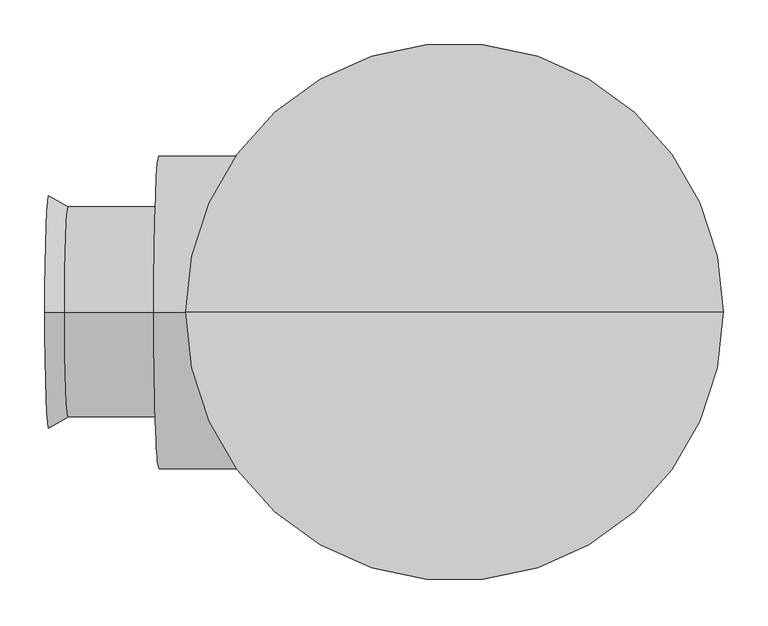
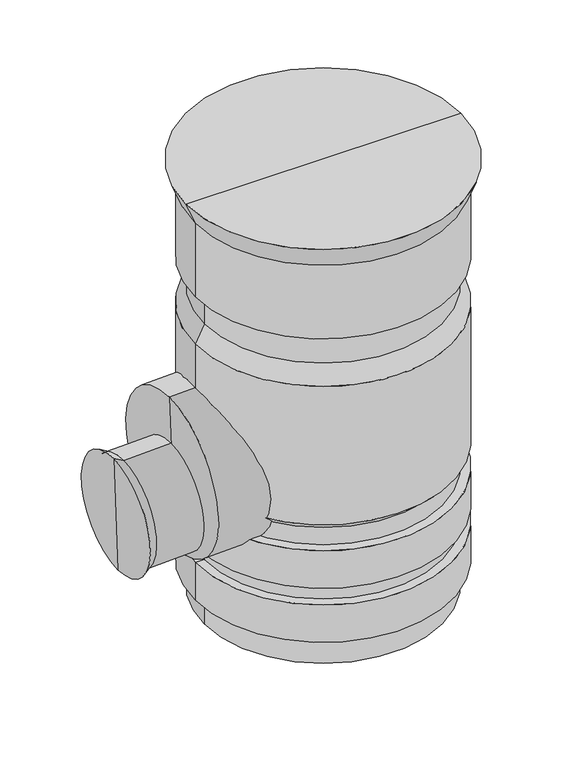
"""IFC4 building model written with IfcOpenShell, lengths in millimetres: pipe fitting geometry, PlastigamaWavin_Unionesdetubería_NovafortSumideros : Sumidero TipoI 220-335mm."""

from ifc_helpers import new_model, si_unit, frame, origin, place, context, project, spatial, polyline, circle_curve, source, transform, mapped, element, save
from ifc_brep_helpers import plane_surface, cylinder_surface, revolved_surface, advanced_brep


def pipe_fitting_116cf6c6(model_context):
    return source(origin(), model_context, "Body", "AdvancedBrep", [
        advanced_brep(
        [(-323.691561, 0.0, 200.6997714), (-335.9063848, 0.0, 550.4865608), (-215.9794856, 0.0, 554.6745004), (-203.7646618, 0.0, 204.887711), (-329.7989729, 0.0, 375.5931661), (-209.8720737, 0.0, 379.7811057)],
        [
            (0, 1, circle_curve(frame((-329.7989729, 0.0, 375.5931661), z_axis=(0.9993908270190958, 0.0, 0.03489949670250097), x_axis=(-0.03489949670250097, 0.0, 0.9993908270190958)), 175.0)),
            (1, 2),
            (2, 3, circle_curve(frame((-209.8720737, 0.0, 379.7811057), z_axis=(-0.9993908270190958, 0.0, -0.03489949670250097), x_axis=(-0.03489949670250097, 0.0, 0.9993908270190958)), 175.0)),
            (3, 0),
            (1, 0, circle_curve(frame((-329.7989729, 0.0, 375.5931661), z_axis=(0.9993908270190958, 0.0, 0.03489949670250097), x_axis=(-0.03489949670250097, 0.0, 0.9993908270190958)), 175.0)),
            (3, 2, circle_curve(frame((-209.8720737, 0.0, 379.7811057), z_axis=(-0.9993908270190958, 0.0, -0.03489949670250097), x_axis=(-0.03489949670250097, 0.0, 0.9993908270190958)), 175.0)),
            (4, 1),
            (0, 4),
            (2, 5),
            (5, 3),
        ],
        [
            cylinder_surface(frame((-329.7989729, 0.0, 375.5931661), z_axis=(-0.9993908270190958, 0.0, -0.03489949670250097), x_axis=(-0.03489949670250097, 0.0, 0.9993908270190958)), 175.0),
            plane_surface(frame((-329.7989729, 0.0, 375.5931661), z_axis=(-0.9993908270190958, 0.0, -0.03489949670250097), x_axis=(-0.03489949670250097, 0.0, 0.9993908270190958))),
            plane_surface(frame((-209.8720737, 0.0, 379.7811057), z_axis=(0.9993908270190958, 0.0, 0.03489949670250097), x_axis=(-0.03489949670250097, 0.0, 0.9993908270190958))),
        ],
        [
            (0, [[1, 2, 3, 4]]),
            (0, [[5, -4, 6, -2]]),
            (1, [[7, -1, 8]]),
            (1, [[-8, -5, -7]]),
            (2, [[-3, 9, 10]]),
            (2, [[-6, -10, -9]]),
        ],
    ),
        advanced_brep(
        [(-323.9533072, 0.0, 208.1952026), (-332.1546889, 0.0, 443.0520469), (-328.0539981, 0.0, 325.6236247), (-427.2397145, 0.0, 204.5883617), (-435.4410962, 0.0, 439.4452061), (-448.4409169, 0.0, 191.3403801), (-457.514786, 0.0, 451.1819952), (-452.9778515, 0.0, 321.2611876)],
        [
            (0, 1, circle_curve(frame((-328.0539981, 0.0, 325.6236247), z_axis=(0.9993908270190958, 0.0, 0.03489949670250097), x_axis=(-0.03489949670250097, 0.0, 0.9993908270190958)), 117.5)),
            (1, 2),
            (2, 0),
            (1, 0, circle_curve(frame((-328.0539981, 0.0, 325.6236247), z_axis=(0.9993908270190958, 0.0, 0.03489949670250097), x_axis=(-0.03489949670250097, 0.0, 0.9993908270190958)), 117.5)),
            (3, 4, circle_curve(frame((-431.3404053, 0.0, 322.0167839), z_axis=(0.9993908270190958, 0.0, 0.03489949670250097), x_axis=(-0.03489949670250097, 0.0, 0.9993908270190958)), 117.5)),
            (4, 1),
            (0, 3),
            (4, 3, circle_curve(frame((-431.3404053, 0.0, 322.0167839), z_axis=(0.9993908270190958, 0.0, 0.03489949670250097), x_axis=(-0.03489949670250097, 0.0, 0.9993908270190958)), 117.5)),
            (5, 6, circle_curve(frame((-452.9778515, 0.0, 321.2611876), z_axis=(0.9993908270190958, 0.0, 0.03489949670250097), x_axis=(-0.03489949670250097, 0.0, 0.9993908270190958)), 130.0)),
            (6, 4),
            (3, 5),
            (6, 5, circle_curve(frame((-452.9778515, 0.0, 321.2611876), z_axis=(0.9993908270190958, 0.0, 0.03489949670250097), x_axis=(-0.03489949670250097, 0.0, 0.9993908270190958)), 130.0)),
            (7, 6),
            (5, 7),
        ],
        [
            plane_surface(frame((-328.0539981, 0.0, 325.6236247), z_axis=(0.9993908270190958, 0.0, 0.03489949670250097), x_axis=(-0.03489949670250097, 0.0, 0.9993908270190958))),
            cylinder_surface(frame((-452.9778515, 0.0, 321.2611876), z_axis=(-0.9993908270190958, 0.0, -0.03489949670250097), x_axis=(-0.03489949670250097, 0.0, 0.9993908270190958)), 117.5),
            revolved_surface(polyline([(-435.4410962, 0.0, 439.4452061), (-457.514786, 0.0, 451.1819952)]), (-452.9778515, 0.0, 321.2611876), (-0.9993908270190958, 0.0, -0.03489949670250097)),
            plane_surface(frame((-452.9778515, 0.0, 321.2611876), z_axis=(-0.9993908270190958, 0.0, -0.03489949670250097), x_axis=(-0.03489949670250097, 0.0, 0.9993908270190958))),
        ],
        [
            (0, [[1, 2, 3]]),
            (0, [[4, -3, -2]]),
            (1, [[5, 6, -1, 7]]),
            (1, [[8, -7, -4, -6]]),
            (2, [[9, 10, -5, 11]]),
            (2, [[12, -11, -8, -10]]),
            (3, [[13, -9, 14]]),
            (3, [[-14, -12, -13]]),
        ],
    ),
        advanced_brep(
        [(260.0, 0.0, 0.0), (-260.0, 0.0, 0.0), (-260.0, 0.0, 62.28), (260.0, 0.0, 62.28), (0.0, 0.0, 0.0), (260.0, 0.0, 273.84), (-260.0, 0.0, 273.84), (-260.0, 0.0, 313.84), (260.0, 0.0, 313.84), (280.0, 0.0, 273.84), (-280.0, 0.0, 273.84), (280.0, 0.0, 187.28), (-280.0, 0.0, 187.28), (260.0, 0.0, 187.28), (-260.0, 0.0, 187.28), (260.0, 0.0, 148.84), (-260.0, 0.0, 148.84), (280.0, 0.0, 148.84), (-280.0, 0.0, 148.84), (280.0, 0.0, 62.28), (-280.0, 0.0, 62.28), (280.0, 0.0, 763.4991367), (-280.0, 0.0, 763.4991367), (-280.0, 0.0, 933.4991367), (280.0, 0.0, 933.4991367), (280.0, 0.0, 333.84), (-280.0, 0.0, 333.84), (-280.0, 0.0, 653.5), (280.0, 0.0, 653.5), (300.0, 0.0, 984.1491367), (-300.0, 0.0, 984.1491367), (0.0, 0.0, 984.1491367), (-260.0, 0.0, 693.4991367), (260.0, 0.0, 693.4991367), (260.0, 0.0, 763.4991367), (-260.0, 0.0, 763.4991367)],
        [
            (0, 1, circle_curve(frame((0.0, 0.0, 0.0), z_axis=(0.0, 0.0, 1.0), x_axis=(-1.0, 0.0, 0.0)), 260.0)),
            (1, 2),
            (2, 3, circle_curve(frame((0.0, 0.0, 62.28), z_axis=(0.0, 0.0, -1.0), x_axis=(-1.0, 0.0, 0.0)), 260.0)),
            (3, 0),
            (1, 0, circle_curve(frame((0.0, 0.0, 0.0), z_axis=(0.0, 0.0, 1.0), x_axis=(-1.0, 0.0, 0.0)), 260.0)),
            (3, 2, circle_curve(frame((0.0, 0.0, 62.28), z_axis=(0.0, 0.0, -1.0), x_axis=(-1.0, 0.0, 0.0)), 260.0)),
            (4, 1),
            (0, 4),
            (5, 6, circle_curve(frame((0.0, 0.0, 273.84), z_axis=(0.0, 0.0, 1.0), x_axis=(-1.0, 0.0, 0.0)), 260.0)),
            (6, 7),
            (7, 8, circle_curve(frame((0.0, 0.0, 313.84), z_axis=(0.0, 0.0, -1.0), x_axis=(-1.0, 0.0, 0.0)), 260.0)),
            (8, 5),
            (6, 5, circle_curve(frame((0.0, 0.0, 273.84), z_axis=(0.0, 0.0, 1.0), x_axis=(-1.0, 0.0, 0.0)), 260.0)),
            (8, 7, circle_curve(frame((0.0, 0.0, 313.84), z_axis=(0.0, 0.0, -1.0), x_axis=(-1.0, 0.0, 0.0)), 260.0)),
            (9, 10, circle_curve(frame((0.0, 0.0, 273.84), z_axis=(0.0, 0.0, 1.0), x_axis=(-1.0, 0.0, 0.0)), 280.0)),
            (10, 6),
            (5, 9),
            (10, 9, circle_curve(frame((0.0, 0.0, 273.84), z_axis=(0.0, 0.0, 1.0), x_axis=(-1.0, 0.0, 0.0)), 280.0)),
            (11, 12, circle_curve(frame((0.0, 0.0, 187.28), z_axis=(0.0, 0.0, 1.0), x_axis=(-1.0, 0.0, 0.0)), 280.0)),
            (12, 10),
            (9, 11),
            (12, 11, circle_curve(frame((0.0, 0.0, 187.28), z_axis=(0.0, 0.0, 1.0), x_axis=(-1.0, 0.0, 0.0)), 280.0)),
            (13, 14, circle_curve(frame((0.0, 0.0, 187.28), z_axis=(0.0, 0.0, 1.0), x_axis=(-1.0, 0.0, 0.0)), 260.0)),
            (14, 12),
            (11, 13),
            (14, 13, circle_curve(frame((0.0, 0.0, 187.28), z_axis=(0.0, 0.0, 1.0), x_axis=(-1.0, 0.0, 0.0)), 260.0)),
            (15, 16, circle_curve(frame((0.0, 0.0, 148.84), z_axis=(0.0, 0.0, 1.0), x_axis=(-1.0, 0.0, 0.0)), 260.0)),
            (16, 14),
            (13, 15),
            (16, 15, circle_curve(frame((0.0, 0.0, 148.84), z_axis=(0.0, 0.0, 1.0), x_axis=(-1.0, 0.0, 0.0)), 260.0)),
            (17, 18, circle_curve(frame((0.0, 0.0, 148.84), z_axis=(0.0, 0.0, 1.0), x_axis=(-1.0, 0.0, 0.0)), 280.0)),
            (18, 16),
            (15, 17),
            (18, 17, circle_curve(frame((0.0, 0.0, 148.84), z_axis=(0.0, 0.0, 1.0), x_axis=(-1.0, 0.0, 0.0)), 280.0)),
            (19, 20, circle_curve(frame((0.0, 0.0, 62.28), z_axis=(0.0, 0.0, 1.0), x_axis=(-1.0, 0.0, 0.0)), 280.0)),
            (20, 18),
            (17, 19),
            (20, 19, circle_curve(frame((0.0, 0.0, 62.28), z_axis=(0.0, 0.0, 1.0), x_axis=(-1.0, 0.0, 0.0)), 280.0)),
            (2, 20),
            (19, 3),
            (21, 22, circle_curve(frame((0.0, 0.0, 763.4991367), z_axis=(0.0, 0.0, 1.0), x_axis=(-1.0, 0.0, 0.0)), 280.0)),
            (22, 23),
            (23, 24, circle_curve(frame((0.0, 0.0, 933.4991367), z_axis=(0.0, 0.0, -1.0), x_axis=(-1.0, 0.0, 0.0)), 280.0)),
            (24, 21),
            (22, 21, circle_curve(frame((0.0, 0.0, 763.4991367), z_axis=(0.0, 0.0, 1.0), x_axis=(-1.0, 0.0, 0.0)), 280.0)),
            (24, 23, circle_curve(frame((0.0, 0.0, 933.4991367), z_axis=(0.0, 0.0, -1.0), x_axis=(-1.0, 0.0, 0.0)), 280.0)),
            (25, 26, circle_curve(frame((0.0, 0.0, 333.84), z_axis=(0.0, 0.0, 1.0), x_axis=(-1.0, 0.0, 0.0)), 280.0)),
            (26, 27),
            (27, 28, circle_curve(frame((0.0, 0.0, 653.5), z_axis=(0.0, 0.0, -1.0), x_axis=(-1.0, 0.0, 0.0)), 280.0)),
            (28, 25),
            (26, 25, circle_curve(frame((0.0, 0.0, 333.84), z_axis=(0.0, 0.0, 1.0), x_axis=(-1.0, 0.0, 0.0)), 280.0)),
            (28, 27, circle_curve(frame((0.0, 0.0, 653.5), z_axis=(0.0, 0.0, -1.0), x_axis=(-1.0, 0.0, 0.0)), 280.0)),
            (29, 30, circle_curve(frame((0.0, 0.0, 984.1491367), z_axis=(0.0, 0.0, 1.0), x_axis=(-1.0, 0.0, 0.0)), 300.0)),
            (30, 31),
            (31, 29),
            (30, 29, circle_curve(frame((0.0, 0.0, 984.1491367), z_axis=(0.0, 0.0, 1.0), x_axis=(-1.0, 0.0, 0.0)), 300.0)),
            (27, 32),
            (32, 33, circle_curve(frame((0.0, 0.0, 693.4991367), z_axis=(0.0, 0.0, -1.0), x_axis=(-1.0, 0.0, 0.0)), 260.0)),
            (33, 28),
            (33, 32, circle_curve(frame((0.0, 0.0, 693.4991367), z_axis=(0.0, 0.0, -1.0), x_axis=(-1.0, 0.0, 0.0)), 260.0)),
            (7, 26),
            (25, 8),
            (23, 30),
            (29, 24),
            (34, 35, circle_curve(frame((0.0, 0.0, 763.4991367), z_axis=(0.0, 0.0, 1.0), x_axis=(-1.0, 0.0, 0.0)), 260.0)),
            (35, 22),
            (21, 34),
            (35, 34, circle_curve(frame((0.0, 0.0, 763.4991367), z_axis=(0.0, 0.0, 1.0), x_axis=(-1.0, 0.0, 0.0)), 260.0)),
            (32, 35),
            (34, 33),
        ],
        [
            cylinder_surface(frame((0.0, 0.0, 1044.4909336), z_axis=(0.0, 0.0, -1.0), x_axis=(-1.0, 0.0, 0.0)), 260.0),
            plane_surface(frame((0.0, 0.0, 0.0), z_axis=(0.0, 0.0, -1.0), x_axis=(-1.0, 0.0, 0.0))),
            plane_surface(frame((0.0, 0.0, 273.84), z_axis=(0.0, 0.0, 1.0), x_axis=(-1.0, 0.0, 0.0))),
            cylinder_surface(frame((0.0, 0.0, 1044.4909336), z_axis=(0.0, 0.0, -1.0), x_axis=(-1.0, 0.0, 0.0)), 280.0),
            plane_surface(frame((0.0, 0.0, 187.28), z_axis=(0.0, 0.0, -1.0), x_axis=(-1.0, 0.0, 0.0))),
            plane_surface(frame((0.0, 0.0, 148.84), z_axis=(0.0, 0.0, 1.0), x_axis=(-1.0, 0.0, 0.0))),
            plane_surface(frame((0.0, 0.0, 62.28), z_axis=(0.0, 0.0, -1.0), x_axis=(-1.0, 0.0, 0.0))),
            plane_surface(frame((0.0, 0.0, 984.1491367), z_axis=(0.0, 0.0, 1.0), x_axis=(-1.0, 0.0, 0.0))),
            revolved_surface(polyline([(-260.0, 0.0, 693.4991367), (-280.0, 0.0, 653.5)]), (0.0, 0.0, 1044.4909336), (0.0, 0.0, -1.0)),
            revolved_surface(polyline([(-280.0, 0.0, 333.84), (-260.0, 0.0, 313.84)]), (0.0, 0.0, 1044.4909336), (0.0, 0.0, -1.0)),
            revolved_surface(polyline([(-300.0, 0.0, 984.1491367), (-280.0, 0.0, 933.4991367)]), (0.0, 0.0, 1044.4909336), (0.0, 0.0, -1.0)),
            plane_surface(frame((0.0, 0.0, 763.4991367), z_axis=(0.0, 0.0, -1.0), x_axis=(-1.0, 0.0, 0.0))),
        ],
        [
            (0, [[1, 2, 3, 4]]),
            (0, [[5, -4, 6, -2]]),
            (1, [[7, -1, 8]]),
            (1, [[-8, -5, -7]]),
            (0, [[9, 10, 11, 12]]),
            (0, [[13, -12, 14, -10]]),
            (2, [[15, 16, -9, 17]]),
            (2, [[18, -17, -13, -16]]),
            (3, [[19, 20, -15, 21]]),
            (3, [[22, -21, -18, -20]]),
            (4, [[23, 24, -19, 25]]),
            (4, [[26, -25, -22, -24]]),
            (0, [[27, 28, -23, 29]]),
            (0, [[30, -29, -26, -28]]),
            (5, [[31, 32, -27, 33]]),
            (5, [[34, -33, -30, -32]]),
            (3, [[35, 36, -31, 37]]),
            (3, [[38, -37, -34, -36]]),
            (6, [[-3, 39, -35, 40]]),
            (6, [[-6, -40, -38, -39]]),
            (3, [[41, 42, 43, 44]]),
            (3, [[45, -44, 46, -42]]),
            (3, [[47, 48, 49, 50]]),
            (3, [[51, -50, 52, -48]]),
            (7, [[53, 54, 55]]),
            (7, [[56, -55, -54]]),
            (8, [[-49, 57, 58, 59]]),
            (8, [[-52, -59, 60, -57]]),
            (9, [[-11, 61, -47, 62]]),
            (9, [[-14, -62, -51, -61]]),
            (10, [[-43, 63, -53, 64]]),
            (10, [[-46, -64, -56, -63]]),
            (11, [[65, 66, -41, 67]]),
            (11, [[68, -67, -45, -66]]),
            (0, [[-58, 69, -65, 70]]),
            (0, [[-60, -70, -68, -69]]),
        ],
    ),
    ])


if __name__ == "__main__":
    model = new_model("IFC4")
    model_context = context("Model", 3, world=origin())
    ifc_project = project(units=[si_unit("LENGTHUNIT", "METRE", prefix="MILLI")], contexts=[model_context])
    site = spatial("IfcSite", under=ifc_project)
    building = spatial("IfcBuilding", under=site)
    placement = place(None, origin())
    pipe_fitting_shape = pipe_fitting_116cf6c6(model_context)
    element("IfcPipeFitting", 1, ObjectType="PlastigamaWavin_Unionesdetubería_NovafortSumideros : Sumidero TipoI 220-335mm", at=placement, inside=building, context=model_context, shape_type="MappedRepresentation", body=[
        mapped(pipe_fitting_shape, transform((0.0, 0.0, 0.0), x_axis=(1.0, 0.0, 0.0), y_axis=(0.0, 1.0, 0.0), z_axis=(0.0, 0.0, 1.0))),
    ])
    save(model, "model.ifc")
